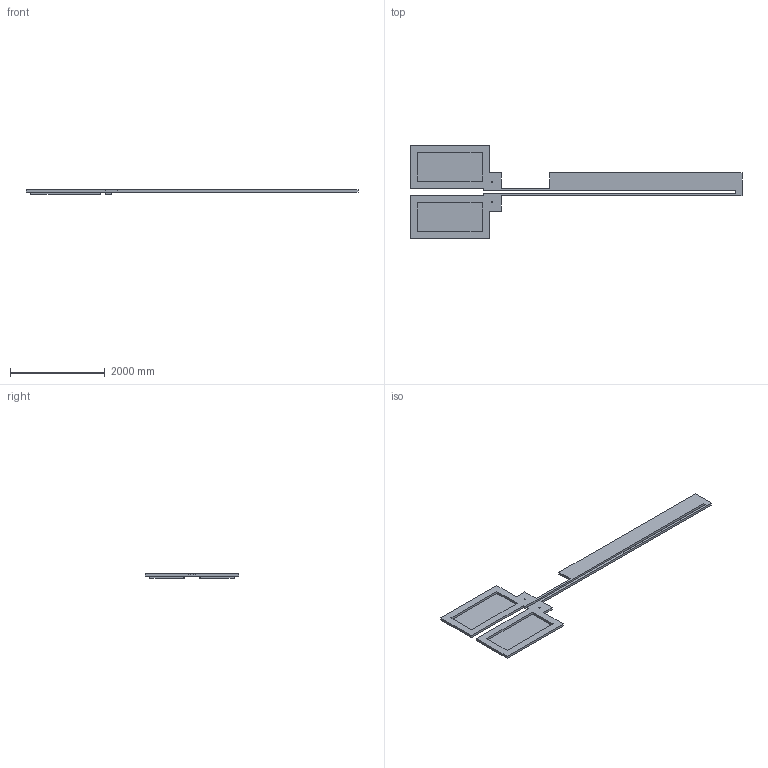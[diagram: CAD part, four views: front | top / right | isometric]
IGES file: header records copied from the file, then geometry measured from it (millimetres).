
Start section:  MEMS Thermal Actuator /COM,ANSYS RELEASE  5.6    UP19991221       08:20:55    12/22/1999 /NOPR /PREP7 /TITLE, MEMS Thermal Actuator BFUNIF,TEMP,_TINY KUSE,0 TIME,0.000000000E+00 TREF,0.000000000E+00 ALPHAD,0.000000000E+00 BETAD,0.000000000E+00 DMPRAT,0.000000000E+00 CRPLIM,0.100000000,0 CRPLIM,0.000000000E+00,1 NCNV,1,0.000000000E+00,0,0.000000000E+00,0.000000000E+00 NEQIT,0 ERESX,DEFA ACEL,0.000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
Global section: file name: actuator.iges; native system: ANSYS; preprocessor:   5.6      UP19991221; date: 991222.082054
Bounding box: 7010.4 x 1981.2 x 101.6 mm (x, y, z)
Volume: 284020593.2 mm3; surface area: 12828361.4 mm2
Topology: 1 solids, 1 shells, 64 faces, 162 edges, 108 vertices
Faces by surface type: bspline 64
